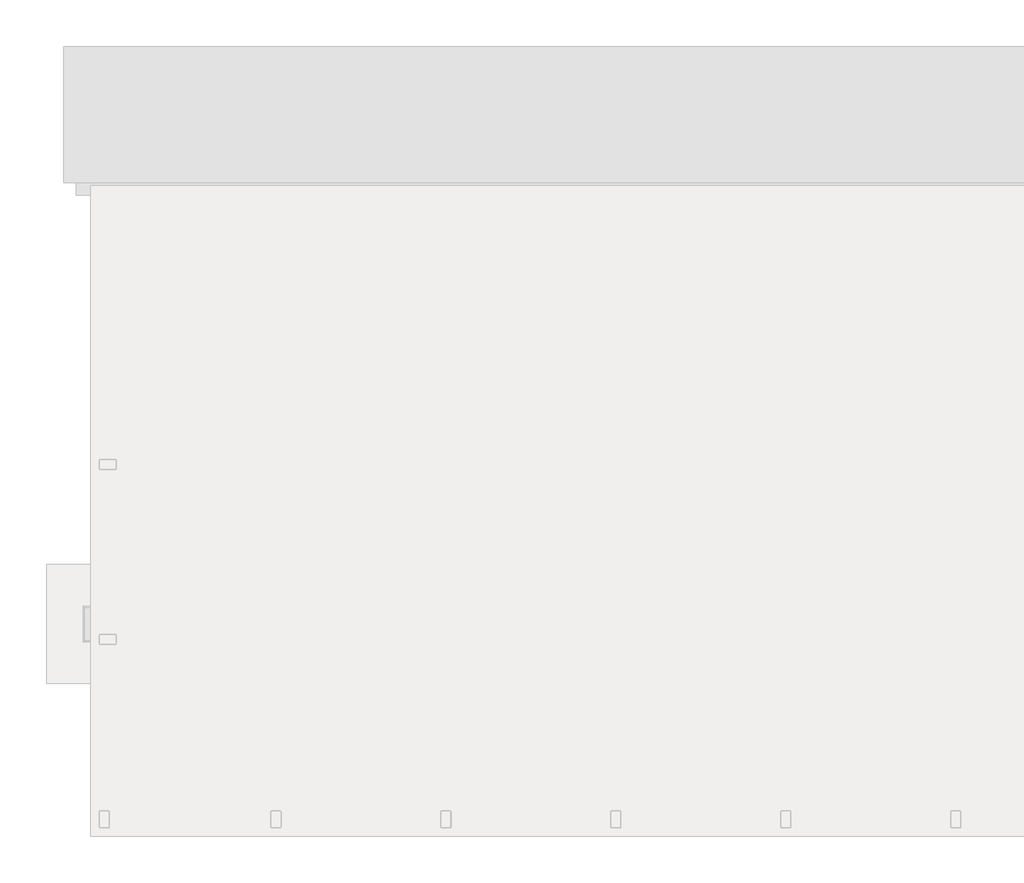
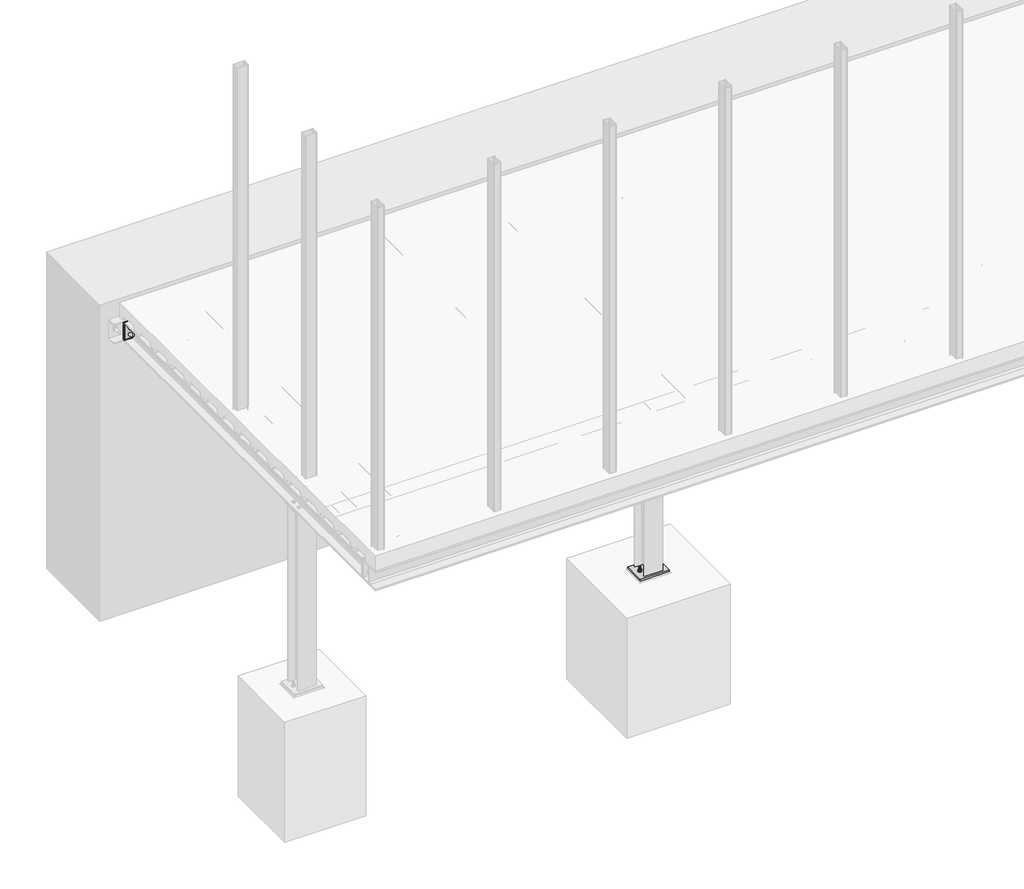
# One storey, part 8 of 36: 11 proxies.
"""IFC4 building model written with IfcOpenShell, lengths in millimetres."""

import ifcopenshell
import ifcopenshell.guid

model = None  # the IFC model being written
_history = None  # IfcOwnerHistory: only IFC2X3 demands one
_inside = {}  # id of a spatial element -> (the spatial element, [elements in it])
_under = {}  # id of a project, library or spatial element -> (it, [spatial elements below it])
_declared = {}  # id of a project -> (the project, [libraries it declares])
_typed = {}  # id of a type object -> (the type object, [elements of that type])
_made_of = {}  # id of a material, layer set ... -> (it, [elements and type objects made of it])


def new_model(schema):
    """Start an empty IFC model of exactly this schema.

    Asked for "IFC4X3", IfcOpenShell would pick the latest addendum, in which some entities
    have other attributes; the version numbers below select the first issue.
    IFC2X3 requires an IfcOwnerHistory on every rooted entity: one is made here for all.
    """
    global model, _history
    if schema == "IFC4X3":
        model = ifcopenshell.file(schema_version=(4, 3, 0, 0))
    else:
        model = ifcopenshell.file(schema=schema)
    _inside.clear()
    _under.clear()
    _declared.clear()
    _typed.clear()
    _made_of.clear()
    _history = None
    if model.schema == "IFC2X3":
        org = make("IfcOrganization", Name="unknown")
        user = make(
            "IfcPersonAndOrganization",
            ThePerson=make("IfcPerson", FamilyName="unknown"),
            TheOrganization=org,
        )
        app = make(
            "IfcApplication",
            ApplicationDeveloper=org,
            Version="unknown",
            ApplicationFullName="unknown",
            ApplicationIdentifier="unknown",
        )
        _history = make(
            "IfcOwnerHistory",
            OwningUser=user,
            OwningApplication=app,
            ChangeAction="ADDED",
            CreationDate=0,
        )
    return model


def make(cls, **values):
    """One entity of the class cls with the attributes given. An attribute that is None is left unset."""
    return model.create_entity(
        cls, **{name: value for name, value in values.items() if value is not None}
    )


def rooted(cls, **values):
    """An entity with a GlobalId (a new one), such as an element, a storey or a relation."""
    return make(cls, GlobalId=ifcopenshell.guid.new(), OwnerHistory=_history, **values)


def si_unit(unit_type, name, prefix=None):
    """IfcSIUnit, for example si_unit("LENGTHUNIT", "METRE", prefix="MILLI")."""
    return make("IfcSIUnit", UnitType=unit_type, Prefix=prefix, Name=name)


def assignment(units):
    """IfcUnitAssignment: the units of a project."""
    return None if units is None else make("IfcUnitAssignment", Units=units)


def point(xyz):
    """IfcCartesianPoint."""
    return None if xyz is None else make("IfcCartesianPoint", Coordinates=xyz)


def direction(xyz):
    """IfcDirection."""
    return None if xyz is None else make("IfcDirection", DirectionRatios=xyz)


def frame(location, z_axis=None, x_axis=None):
    """IfcAxis2Placement3D, a coordinate frame: its origin and axes. An axis left out is left unset."""
    return make(
        "IfcAxis2Placement3D",
        Location=point(location),
        Axis=direction(z_axis),
        RefDirection=direction(x_axis),
    )


def frame_2d(location, x_axis=None):
    """IfcAxis2Placement2D, a coordinate frame in the plane: its origin and x axis."""
    return make(
        "IfcAxis2Placement2D", Location=point(location), RefDirection=direction(x_axis)
    )


def origin():
    """The frame at (0, 0, 0) with its axes left unset."""
    return frame((0.0, 0.0, 0.0))


def place(relative_to, where):
    """IfcLocalPlacement: puts the frame where relative to a parent placement (None: the world)."""
    return make(
        "IfcLocalPlacement", PlacementRelTo=relative_to, RelativePlacement=where
    )


def context(
    kind, dimensions, precision=None, world=None, true_north=None, identifier=None
):
    """IfcGeometricRepresentationContext, for example the 3D "Model" context."""
    return make(
        "IfcGeometricRepresentationContext",
        ContextIdentifier=identifier,
        ContextType=kind,
        CoordinateSpaceDimension=dimensions,
        Precision=precision,
        WorldCoordinateSystem=world,
        TrueNorth=true_north,
    )


def project(units=None, contexts=None):
    """IfcProject with its units and contexts."""
    return rooted(
        "IfcProject",
        Name="project",
        RepresentationContexts=contexts,
        UnitsInContext=assignment(units),
    )


def spatial(cls, under=None, at=None, **own):
    """A site, building, storey or space (cls), placed at a placement, below another one or the project."""
    s = rooted(cls, ObjectPlacement=at, **own)
    if under is not None:
        _under.setdefault(under.id(), (under, []))[1].append(s)
    return s


def polyline(points):
    """IfcPolyline through the points."""
    return make("IfcPolyline", Points=[point(p) for p in points])


def circle_curve(where, radius):
    """IfcCircle in the frame where."""
    return make("IfcCircle", Position=where, Radius=radius)


def trimmed(basis, trim1, trim2, sense, master):
    """IfcTrimmedCurve: the piece of a basis curve between two trims."""
    return make(
        "IfcTrimmedCurve",
        BasisCurve=basis,
        Trim1=trim1,
        Trim2=trim2,
        SenseAgreement=sense,
        MasterRepresentation=master,
    )


def segment(curve, same_sense, transition):
    """IfcCompositeCurveSegment."""
    return make(
        "IfcCompositeCurveSegment",
        Transition=transition,
        SameSense=same_sense,
        ParentCurve=curve,
    )


def composite_curve(segments, self_intersect=None):
    """IfcCompositeCurve: segments joined end to end."""
    return make("IfcCompositeCurve", Segments=segments, SelfIntersect=self_intersect)


def outline(outer, holes=None, kind="AREA"):
    """IfcArbitraryClosedProfileDef: a profile drawn as a closed curve; with holes, ...WithVoids."""
    if holes is None:
        return make("IfcArbitraryClosedProfileDef", ProfileType=kind, OuterCurve=outer)
    return make(
        "IfcArbitraryProfileDefWithVoids",
        ProfileType=kind,
        OuterCurve=outer,
        InnerCurves=holes,
    )


def extrude(swept, where, along, depth):
    """IfcExtrudedAreaSolid: the profile swept, set in the frame where, extruded along a direction by depth."""
    return make(
        "IfcExtrudedAreaSolid",
        SweptArea=swept,
        Position=where,
        ExtrudedDirection=direction(along),
        Depth=depth,
    )


def shape(context_of_items, identifier, shape_type, items):
    """IfcShapeRepresentation: the items that make up one representation, for example the "Body"."""
    return make(
        "IfcShapeRepresentation",
        ContextOfItems=context_of_items,
        RepresentationIdentifier=identifier,
        RepresentationType=shape_type,
        Items=items,
    )


def made_of(thing, what):
    """Note that an element or type object is made of a material, layer set ...; save() writes the relation."""
    if what is not None:
        _made_of.setdefault(what.id(), (what, []))[1].append(thing)
    return thing


def element(
    cls,
    number,
    at=None,
    inside=None,
    cuts=None,
    type_object=None,
    material=None,
    context=None,
    identifier="Body",
    shape_type=None,
    held_by="IfcProductDefinitionShape",
    body=None,
    shapes=None,
    **own,
):
    """One element of the class cls, such as IfcWall. Its Tag is "e" and its number.

    at: its placement. inside: the storey or other place that contains it. cuts: it is an
    opening in that element (IfcRelVoidsElement). A single representation is given by context,
    identifier, shape_type and body (its items); several are given by shapes. held_by: the class
    of the entity that holds the representations. save() writes the other relations.
    """
    e = rooted(cls, Tag="e%d" % number, ObjectPlacement=at, **own)
    if body is not None:
        shapes = [shape(context, identifier, shape_type, body)]
    if shapes is not None:
        e.Representation = make(held_by, Representations=shapes)
    if inside is not None:
        _inside.setdefault(inside.id(), (inside, []))[1].append(e)
    if cuts is not None:
        rooted(
            "IfcRelVoidsElement", RelatingBuildingElement=cuts, RelatedOpeningElement=e
        )
    if type_object is not None:
        _typed.setdefault(type_object.id(), (type_object, []))[1].append(e)
    return made_of(e, material)


def aggregate(whole, parts):
    """IfcRelAggregates: a whole, such as a stair, and the parts it consists of."""
    return rooted("IfcRelAggregates", RelatingObject=whole, RelatedObjects=parts)


def save(model, path):
    """Write the relations noted so far, then the file.

    IfcRelAggregates (storeys below a building ...), IfcRelContainedInSpatialStructure (elements
    in a storey), IfcRelDefinesByType, IfcRelAssociatesMaterial and IfcRelDeclares: one each for
    every whole, place, type object, material and project.
    """
    for whole, parts in _under.values():
        aggregate(whole, parts)
    for where, things in _inside.values():
        rooted(
            "IfcRelContainedInSpatialStructure",
            RelatedElements=things,
            RelatingStructure=where,
        )
    for kind, things in _typed.values():
        rooted("IfcRelDefinesByType", RelatedObjects=things, RelatingType=kind)
    for what, things in _made_of.values():
        rooted("IfcRelAssociatesMaterial", RelatedObjects=things, RelatingMaterial=what)
    for by, libraries in _declared.values():
        rooted("IfcRelDeclares", RelatingContext=by, RelatedDefinitions=libraries)
    model.write(path)


model = new_model("IFC4")

# Units and contexts
model_context = context("Model", 3, world=origin())
ifc_project = project(units=[si_unit("LENGTHUNIT", "METRE", prefix="MILLI")], contexts=[model_context])

# Site, building, storey
site = spatial("IfcSite", under=ifc_project)
building = spatial("IfcBuilding", under=site)
storey = spatial("IfcBuildingStorey", under=building, Name="Základy", Elevation=-1200.0)

# Proxies
placement = place(None, origin())
element("IfcBuildingElementProxy", 1, Name="PLECH", ObjectType="PLECH", at=placement, inside=storey, context=model_context, shape_type="SweptSolid", body=[
    extrude(outline(composite_curve([segment(polyline([(-174.0, 2960.0), (-326.0, 2960.0), (-326.0, 3020.5)]), True, "CONTINUOUS"), segment(trimmed(circle_curve(frame_2d((-326.0, 3045.5)), 25.0), [point((-326.0, 3020.5))], [point((-301.0, 3045.5))], True, "CARTESIAN"), True, "CONTINUOUS"), segment(polyline([(-301.0, 3045.5), (-199.0, 3045.5)]), True, "CONTINUOUS"), segment(trimmed(circle_curve(frame_2d((-174.0, 3045.5)), 25.0), [point((-199.0, 3045.5))], [point((-174.0, 3020.5))], True, "CARTESIAN"), True, "CONTINUOUS"), segment(polyline([(-174.0, 3020.5), (-174.0, 2960.0)]), True, "CONTINUOUS")], self_intersect=False)), frame((0.0, 1256.0, 0.0), z_axis=(0.0, 1.0, 0.0), x_axis=(0.0, 0.0, 1.0)), (0.0, 0.0, 1.0), 8.0),
])
element("IfcBuildingElementProxy", 2, Name="PLECH", ObjectType="PLECH", at=placement, inside=storey, context=model_context, shape_type="SweptSolid", body=[
    extrude(outline(polyline([(3140.0, 1200.0), (3140.0, 1320.0), (3150.0, 1320.0), (3150.0, 1200.0), (3140.0, 1200.0)])), frame((0.0, 0.0, -332.0), z_axis=(0.0, 0.0, 1.0), x_axis=(1.0, 0.0, 0.0)), (0.0, 0.0, 1.0), 164.0),
])
element("IfcBuildingElementProxy", 3, Name="PLECH", ObjectType="PLECH", at=placement, inside=storey, context=model_context, shape_type="SweptSolid", body=[
    extrude(outline(composite_curve([segment(polyline([(-174.0, 3140.0), (-174.0, 3079.5)]), True, "CONTINUOUS"), segment(trimmed(circle_curve(frame_2d((-174.0, 3054.5)), 25.0), [point((-174.0, 3079.5))], [point((-199.0, 3054.5))], True, "CARTESIAN"), True, "CONTINUOUS"), segment(polyline([(-199.0, 3054.5), (-301.0, 3054.5)]), True, "CONTINUOUS"), segment(trimmed(circle_curve(frame_2d((-326.0, 3054.5)), 25.0), [point((-301.0, 3054.5))], [point((-326.0, 3079.5))], True, "CARTESIAN"), True, "CONTINUOUS"), segment(polyline([(-326.0, 3079.5), (-326.0, 3140.0), (-174.0, 3140.0)]), True, "CONTINUOUS")], self_intersect=False)), frame((0.0, 1256.0, 0.0), z_axis=(0.0, 1.0, 0.0), x_axis=(0.0, 0.0, 1.0)), (0.0, 0.0, 1.0), 8.0),
])
element("IfcBuildingElementProxy", 4, Name="PLECH", ObjectType="PLECH", at=placement, inside=storey, context=model_context, shape_type="SweptSolid", body=[
    extrude(outline(polyline([(-40.0, 3775.0), (140.0, 3775.0), (140.0, 3767.0), (-40.0, 3767.0), (-40.0, 3775.0)])), frame((0.0, 0.0, -316.0), z_axis=(0.0, 0.0, 1.0), x_axis=(1.0, 0.0, 0.0)), (0.0, 0.0, 1.0), 132.0),
])
element("IfcBuildingElementProxy", 5, Name="PLECH", ObjectType="PLECH", at=placement, inside=storey, context=model_context, shape_type="SweptSolid", body=[
    extrude(outline(polyline([(3175.0, 1356.0), (3175.0, 1164.0), (2925.0, 1164.0), (2925.0, 1356.0), (3175.0, 1356.0)])), frame((0.0, 0.0, -1990.0), z_axis=(0.0, 0.0, 1.0), x_axis=(1.0, 0.0, 0.0)), (0.0, 0.0, 1.0), 15.0),
])
element("IfcBuildingElementProxy", 6, Name="PLECH", ObjectType="PLECH", at=placement, inside=storey, context=model_context, shape_type="SweptSolid", body=[
    extrude(outline(polyline([(3140.0, 1346.0), (3140.0, 1174.0), (2960.0, 1174.0), (2960.0, 1346.0), (3140.0, 1346.0)])), frame((0.0, 0.0, -350.0), z_axis=(0.0, 0.0, 1.0), x_axis=(1.0, 0.0, 0.0)), (0.0, 0.0, 1.0), 10.0),
])
element("IfcBuildingElementProxy", 7, Name="PLECH", ObjectType="PLECH", at=placement, inside=storey, context=model_context, shape_type="SweptSolid", body=[
    extrude(outline(composite_curve([segment(polyline([(3785.0, -170.5), (3834.5, -170.5)]), True, "CONTINUOUS"), segment(trimmed(circle_curve(frame_2d((3854.5, -170.5)), 20.0), [point((3834.5, -170.5))], [point((3854.5, -190.5))], True, "CARTESIAN"), True, "CONTINUOUS"), segment(polyline([(3854.5, -190.5), (3854.5, -309.5)]), True, "CONTINUOUS"), segment(trimmed(circle_curve(frame_2d((3854.5, -329.5)), 20.0), [point((3854.5, -309.5))], [point((3834.5, -329.5))], True, "CARTESIAN"), True, "CONTINUOUS"), segment(polyline([(3834.5, -329.5), (3785.0, -329.5), (3785.0, -170.5)]), True, "CONTINUOUS")], self_intersect=False)), frame((46.0, 0.0, 0.0), z_axis=(1.0, 0.0, 0.0), x_axis=(0.0, 1.0, 0.0)), (0.0, 0.0, 1.0), 8.0),
])
element("IfcBuildingElementProxy", 8, Name="PLECH", ObjectType="PLECH", at=placement, inside=storey, context=model_context, shape_type="SweptSolid", body=[
    extrude(outline(polyline([(-40.0, 3785.0), (140.0, 3785.0), (140.0, 3775.0), (-40.0, 3775.0), (-40.0, 3785.0)])), frame((0.0, 0.0, -332.0), z_axis=(0.0, 0.0, 1.0), x_axis=(1.0, 0.0, 0.0)), (0.0, 0.0, 1.0), 164.0),
])
element("IfcBuildingElementProxy", 9, Name="Bolt assembly", ObjectType="Bolt assembly", at=placement, inside=storey, context=model_context, shape_type="SweptSolid", body=[
    extrude(outline(composite_curve([segment(trimmed(circle_curve(frame_2d((1230.0, -225.0)), 6.5), [point((1230.0, -231.5))], [point((1230.0, -218.5))], False, "CARTESIAN"), True, "CONTINUOUS"), segment(trimmed(circle_curve(frame_2d((1230.0, -225.0)), 6.5), [point((1230.0, -218.5))], [point((1230.0, -231.5))], False, "CARTESIAN"), True, "CONTINUOUS")], self_intersect=False)), frame((3140.1, 0.0, 0.0), z_axis=(1.0, 0.0, 0.0), x_axis=(0.0, 1.0, 0.0)), (0.0, 0.0, 1.0), 10.0),
    extrude(outline(polyline([(1230.0, -235.3923048), (1221.0, -230.1961524), (1221.0, -219.8038476), (1230.0, -214.6076952), (1239.0, -219.8038476), (1239.0, -230.1961524), (1230.0, -235.3923048)])), frame((3130.0, 0.0, 0.0), z_axis=(1.0, 0.0, 0.0), x_axis=(0.0, 1.0, 0.0)), (0.0, 0.0, 1.0), 7.5),
    extrude(outline(composite_curve([segment(trimmed(circle_curve(frame_2d((1230.0, -225.0)), 6.0), [point((1230.0, -231.0))], [point((1230.0, -219.0))], False, "CARTESIAN"), True, "CONTINUOUS"), segment(trimmed(circle_curve(frame_2d((1230.0, -225.0)), 6.0), [point((1230.0, -219.0))], [point((1230.0, -231.0))], False, "CARTESIAN"), True, "CONTINUOUS")], self_intersect=False)), frame((3137.5, 0.0, 0.0), z_axis=(1.0, 0.0, 0.0), x_axis=(0.0, 1.0, 0.0)), (0.0, 0.0, 1.0), 40.0),
    extrude(outline(composite_curve([segment(trimmed(circle_curve(frame_2d((1230.0, -225.0)), 12.0), [point((1230.0, -237.0))], [point((1230.0, -213.0))], False, "CARTESIAN"), True, "CONTINUOUS"), segment(trimmed(circle_curve(frame_2d((1230.0, -225.0)), 12.0), [point((1230.0, -213.0))], [point((1230.0, -237.0))], False, "CARTESIAN"), True, "CONTINUOUS")], self_intersect=False)), frame((3137.5, 0.0, 0.0), z_axis=(1.0, 0.0, 0.0), x_axis=(0.0, 1.0, 0.0)), (0.0, 0.0, 1.0), 2.5),
    extrude(outline(composite_curve([segment(trimmed(circle_curve(frame_2d((1230.0, -225.0)), 12.0), [point((1230.0, -237.0))], [point((1230.0, -213.0))], False, "CARTESIAN"), True, "CONTINUOUS"), segment(trimmed(circle_curve(frame_2d((1230.0, -225.0)), 12.0), [point((1230.0, -213.0))], [point((1230.0, -237.0))], False, "CARTESIAN"), True, "CONTINUOUS")], self_intersect=False)), frame((3160.0, 0.0, 0.0), z_axis=(1.0, 0.0, 0.0), x_axis=(0.0, 1.0, 0.0)), (0.0, 0.0, 1.0), 2.5),
    extrude(outline(polyline([(1230.0, -235.9696551), (1220.5, -230.4848276), (1220.5, -219.5151724), (1230.0, -214.0303449), (1239.5, -219.5151724), (1239.5, -230.4848276), (1230.0, -235.9696551)])), frame((3162.5, 0.0, 0.0), z_axis=(1.0, 0.0, 0.0), x_axis=(0.0, 1.0, 0.0)), (0.0, 0.0, 1.0), 10.0),
    extrude(outline(composite_curve([segment(trimmed(circle_curve(frame_2d((1230.0, -225.0)), 6.5), [point((1230.0, -231.5))], [point((1230.0, -218.5))], False, "CARTESIAN"), True, "CONTINUOUS"), segment(trimmed(circle_curve(frame_2d((1230.0, -225.0)), 6.5), [point((1230.0, -218.5))], [point((1230.0, -231.5))], False, "CARTESIAN"), True, "CONTINUOUS")], self_intersect=False)), frame((3149.9, 0.0, 0.0), z_axis=(1.0, 0.0, 0.0), x_axis=(0.0, 1.0, 0.0)), (0.0, 0.0, 1.0), 10.1),
    extrude(outline(composite_curve([segment(trimmed(circle_curve(frame_2d((1230.0, -275.0)), 6.5), [point((1230.0, -281.5))], [point((1230.0, -268.5))], False, "CARTESIAN"), True, "CONTINUOUS"), segment(trimmed(circle_curve(frame_2d((1230.0, -275.0)), 6.5), [point((1230.0, -268.5))], [point((1230.0, -281.5))], False, "CARTESIAN"), True, "CONTINUOUS")], self_intersect=False)), frame((3140.1, 0.0, 0.0), z_axis=(1.0, 0.0, 0.0), x_axis=(0.0, 1.0, 0.0)), (0.0, 0.0, 1.0), 10.0),
    extrude(outline(polyline([(1230.0, -285.3923048), (1221.0, -280.1961524), (1221.0, -269.8038476), (1230.0, -264.6076952), (1239.0, -269.8038476), (1239.0, -280.1961524), (1230.0, -285.3923048)])), frame((3130.0, 0.0, 0.0), z_axis=(1.0, 0.0, 0.0), x_axis=(0.0, 1.0, 0.0)), (0.0, 0.0, 1.0), 7.5),
    extrude(outline(composite_curve([segment(trimmed(circle_curve(frame_2d((1230.0, -275.0)), 6.0), [point((1230.0, -281.0))], [point((1230.0, -269.0))], False, "CARTESIAN"), True, "CONTINUOUS"), segment(trimmed(circle_curve(frame_2d((1230.0, -275.0)), 6.0), [point((1230.0, -269.0))], [point((1230.0, -281.0))], False, "CARTESIAN"), True, "CONTINUOUS")], self_intersect=False)), frame((3137.5, 0.0, 0.0), z_axis=(1.0, 0.0, 0.0), x_axis=(0.0, 1.0, 0.0)), (0.0, 0.0, 1.0), 40.0),
    extrude(outline(composite_curve([segment(trimmed(circle_curve(frame_2d((1230.0, -275.0)), 12.0), [point((1230.0, -287.0))], [point((1230.0, -263.0))], False, "CARTESIAN"), True, "CONTINUOUS"), segment(trimmed(circle_curve(frame_2d((1230.0, -275.0)), 12.0), [point((1230.0, -263.0))], [point((1230.0, -287.0))], False, "CARTESIAN"), True, "CONTINUOUS")], self_intersect=False)), frame((3137.5, 0.0, 0.0), z_axis=(1.0, 0.0, 0.0), x_axis=(0.0, 1.0, 0.0)), (0.0, 0.0, 1.0), 2.5),
    extrude(outline(composite_curve([segment(trimmed(circle_curve(frame_2d((1230.0, -275.0)), 12.0), [point((1230.0, -287.0))], [point((1230.0, -263.0))], False, "CARTESIAN"), True, "CONTINUOUS"), segment(trimmed(circle_curve(frame_2d((1230.0, -275.0)), 12.0), [point((1230.0, -263.0))], [point((1230.0, -287.0))], False, "CARTESIAN"), True, "CONTINUOUS")], self_intersect=False)), frame((3160.0, 0.0, 0.0), z_axis=(1.0, 0.0, 0.0), x_axis=(0.0, 1.0, 0.0)), (0.0, 0.0, 1.0), 2.5),
    extrude(outline(polyline([(1230.0, -285.9696551), (1220.5, -280.4848276), (1220.5, -269.5151724), (1230.0, -264.0303449), (1239.5, -269.5151724), (1239.5, -280.4848276), (1230.0, -285.9696551)])), frame((3162.5, 0.0, 0.0), z_axis=(1.0, 0.0, 0.0), x_axis=(0.0, 1.0, 0.0)), (0.0, 0.0, 1.0), 10.0),
    extrude(outline(composite_curve([segment(trimmed(circle_curve(frame_2d((1230.0, -275.0)), 6.5), [point((1230.0, -281.5))], [point((1230.0, -268.5))], False, "CARTESIAN"), True, "CONTINUOUS"), segment(trimmed(circle_curve(frame_2d((1230.0, -275.0)), 6.5), [point((1230.0, -268.5))], [point((1230.0, -281.5))], False, "CARTESIAN"), True, "CONTINUOUS")], self_intersect=False)), frame((3149.9, 0.0, 0.0), z_axis=(1.0, 0.0, 0.0), x_axis=(0.0, 1.0, 0.0)), (0.0, 0.0, 1.0), 10.1),
    extrude(outline(composite_curve([segment(trimmed(circle_curve(frame_2d((1290.0, -225.0)), 6.5), [point((1290.0, -231.5))], [point((1290.0, -218.5))], False, "CARTESIAN"), True, "CONTINUOUS"), segment(trimmed(circle_curve(frame_2d((1290.0, -225.0)), 6.5), [point((1290.0, -218.5))], [point((1290.0, -231.5))], False, "CARTESIAN"), True, "CONTINUOUS")], self_intersect=False)), frame((3140.1, 0.0, 0.0), z_axis=(1.0, 0.0, 0.0), x_axis=(0.0, 1.0, 0.0)), (0.0, 0.0, 1.0), 10.0),
    extrude(outline(polyline([(1290.0, -235.3923048), (1281.0, -230.1961524), (1281.0, -219.8038476), (1290.0, -214.6076952), (1299.0, -219.8038476), (1299.0, -230.1961524), (1290.0, -235.3923048)])), frame((3130.0, 0.0, 0.0), z_axis=(1.0, 0.0, 0.0), x_axis=(0.0, 1.0, 0.0)), (0.0, 0.0, 1.0), 7.5),
    extrude(outline(composite_curve([segment(trimmed(circle_curve(frame_2d((1290.0, -225.0)), 6.0), [point((1290.0, -231.0))], [point((1290.0, -219.0))], False, "CARTESIAN"), True, "CONTINUOUS"), segment(trimmed(circle_curve(frame_2d((1290.0, -225.0)), 6.0), [point((1290.0, -219.0))], [point((1290.0, -231.0))], False, "CARTESIAN"), True, "CONTINUOUS")], self_intersect=False)), frame((3137.5, 0.0, 0.0), z_axis=(1.0, 0.0, 0.0), x_axis=(0.0, 1.0, 0.0)), (0.0, 0.0, 1.0), 40.0),
    extrude(outline(composite_curve([segment(trimmed(circle_curve(frame_2d((1290.0, -225.0)), 12.0), [point((1290.0, -237.0))], [point((1290.0, -213.0))], False, "CARTESIAN"), True, "CONTINUOUS"), segment(trimmed(circle_curve(frame_2d((1290.0, -225.0)), 12.0), [point((1290.0, -213.0))], [point((1290.0, -237.0))], False, "CARTESIAN"), True, "CONTINUOUS")], self_intersect=False)), frame((3137.5, 0.0, 0.0), z_axis=(1.0, 0.0, 0.0), x_axis=(0.0, 1.0, 0.0)), (0.0, 0.0, 1.0), 2.5),
    extrude(outline(composite_curve([segment(trimmed(circle_curve(frame_2d((1290.0, -225.0)), 12.0), [point((1290.0, -237.0))], [point((1290.0, -213.0))], False, "CARTESIAN"), True, "CONTINUOUS"), segment(trimmed(circle_curve(frame_2d((1290.0, -225.0)), 12.0), [point((1290.0, -213.0))], [point((1290.0, -237.0))], False, "CARTESIAN"), True, "CONTINUOUS")], self_intersect=False)), frame((3160.0, 0.0, 0.0), z_axis=(1.0, 0.0, 0.0), x_axis=(0.0, 1.0, 0.0)), (0.0, 0.0, 1.0), 2.5),
    extrude(outline(polyline([(1290.0, -235.9696551), (1280.5, -230.4848276), (1280.5, -219.5151724), (1290.0, -214.0303449), (1299.5, -219.5151724), (1299.5, -230.4848276), (1290.0, -235.9696551)])), frame((3162.5, 0.0, 0.0), z_axis=(1.0, 0.0, 0.0), x_axis=(0.0, 1.0, 0.0)), (0.0, 0.0, 1.0), 10.0),
    extrude(outline(composite_curve([segment(trimmed(circle_curve(frame_2d((1290.0, -225.0)), 6.5), [point((1290.0, -231.5))], [point((1290.0, -218.5))], False, "CARTESIAN"), True, "CONTINUOUS"), segment(trimmed(circle_curve(frame_2d((1290.0, -225.0)), 6.5), [point((1290.0, -218.5))], [point((1290.0, -231.5))], False, "CARTESIAN"), True, "CONTINUOUS")], self_intersect=False)), frame((3149.9, 0.0, 0.0), z_axis=(1.0, 0.0, 0.0), x_axis=(0.0, 1.0, 0.0)), (0.0, 0.0, 1.0), 10.1),
    extrude(outline(composite_curve([segment(trimmed(circle_curve(frame_2d((1290.0, -275.0)), 6.5), [point((1290.0, -281.5))], [point((1290.0, -268.5))], False, "CARTESIAN"), True, "CONTINUOUS"), segment(trimmed(circle_curve(frame_2d((1290.0, -275.0)), 6.5), [point((1290.0, -268.5))], [point((1290.0, -281.5))], False, "CARTESIAN"), True, "CONTINUOUS")], self_intersect=False)), frame((3140.1, 0.0, 0.0), z_axis=(1.0, 0.0, 0.0), x_axis=(0.0, 1.0, 0.0)), (0.0, 0.0, 1.0), 10.0),
    extrude(outline(polyline([(1290.0, -285.3923048), (1281.0, -280.1961524), (1281.0, -269.8038476), (1290.0, -264.6076952), (1299.0, -269.8038476), (1299.0, -280.1961524), (1290.0, -285.3923048)])), frame((3130.0, 0.0, 0.0), z_axis=(1.0, 0.0, 0.0), x_axis=(0.0, 1.0, 0.0)), (0.0, 0.0, 1.0), 7.5),
    extrude(outline(composite_curve([segment(trimmed(circle_curve(frame_2d((1290.0, -275.0)), 6.0), [point((1290.0, -281.0))], [point((1290.0, -269.0))], False, "CARTESIAN"), True, "CONTINUOUS"), segment(trimmed(circle_curve(frame_2d((1290.0, -275.0)), 6.0), [point((1290.0, -269.0))], [point((1290.0, -281.0))], False, "CARTESIAN"), True, "CONTINUOUS")], self_intersect=False)), frame((3137.5, 0.0, 0.0), z_axis=(1.0, 0.0, 0.0), x_axis=(0.0, 1.0, 0.0)), (0.0, 0.0, 1.0), 40.0),
    extrude(outline(composite_curve([segment(trimmed(circle_curve(frame_2d((1290.0, -275.0)), 12.0), [point((1290.0, -287.0))], [point((1290.0, -263.0))], False, "CARTESIAN"), True, "CONTINUOUS"), segment(trimmed(circle_curve(frame_2d((1290.0, -275.0)), 12.0), [point((1290.0, -263.0))], [point((1290.0, -287.0))], False, "CARTESIAN"), True, "CONTINUOUS")], self_intersect=False)), frame((3137.5, 0.0, 0.0), z_axis=(1.0, 0.0, 0.0), x_axis=(0.0, 1.0, 0.0)), (0.0, 0.0, 1.0), 2.5),
    extrude(outline(composite_curve([segment(trimmed(circle_curve(frame_2d((1290.0, -275.0)), 12.0), [point((1290.0, -287.0))], [point((1290.0, -263.0))], False, "CARTESIAN"), True, "CONTINUOUS"), segment(trimmed(circle_curve(frame_2d((1290.0, -275.0)), 12.0), [point((1290.0, -263.0))], [point((1290.0, -287.0))], False, "CARTESIAN"), True, "CONTINUOUS")], self_intersect=False)), frame((3160.0, 0.0, 0.0), z_axis=(1.0, 0.0, 0.0), x_axis=(0.0, 1.0, 0.0)), (0.0, 0.0, 1.0), 2.5),
    extrude(outline(polyline([(1290.0, -285.9696551), (1280.5, -280.4848276), (1280.5, -269.5151724), (1290.0, -264.0303449), (1299.5, -269.5151724), (1299.5, -280.4848276), (1290.0, -285.9696551)])), frame((3162.5, 0.0, 0.0), z_axis=(1.0, 0.0, 0.0), x_axis=(0.0, 1.0, 0.0)), (0.0, 0.0, 1.0), 10.0),
    extrude(outline(composite_curve([segment(trimmed(circle_curve(frame_2d((1290.0, -275.0)), 6.5), [point((1290.0, -281.5))], [point((1290.0, -268.5))], False, "CARTESIAN"), True, "CONTINUOUS"), segment(trimmed(circle_curve(frame_2d((1290.0, -275.0)), 6.5), [point((1290.0, -268.5))], [point((1290.0, -281.5))], False, "CARTESIAN"), True, "CONTINUOUS")], self_intersect=False)), frame((3149.9, 0.0, 0.0), z_axis=(1.0, 0.0, 0.0), x_axis=(0.0, 1.0, 0.0)), (0.0, 0.0, 1.0), 10.1),
])
element("IfcBuildingElementProxy", 10, Name="Bolt assembly", ObjectType="Bolt assembly", at=placement, inside=storey, context=model_context, shape_type="SweptSolid", body=[
    extrude(outline(polyline([(2982.7364934, 1260.0), (2978.8682467, 1253.3000002), (2971.1317533, 1253.3000002), (2967.2635066, 1260.0), (2971.1317533, 1266.6999998), (2978.8682467, 1266.6999998), (2982.7364934, 1260.0)])), frame((0.0, 0.0, -2122.0), z_axis=(0.0, 0.0, 1.0), x_axis=(1.0, 0.0, 0.0)), (0.0, 0.0, 1.0), 132.0),
    extrude(outline(composite_curve([segment(trimmed(circle_curve(frame_2d((2975.0, 1260.0)), 8.0), [point((2983.0, 1260.0))], [point((2967.0, 1260.0))], False, "CARTESIAN"), True, "CONTINUOUS"), segment(trimmed(circle_curve(frame_2d((2975.0, 1260.0)), 8.0), [point((2967.0, 1260.0))], [point((2983.0, 1260.0))], False, "CARTESIAN"), True, "CONTINUOUS")], self_intersect=False)), frame((0.0, 0.0, -1990.0), z_axis=(0.0, 0.0, 1.0), x_axis=(1.0, 0.0, 0.0)), (0.0, 0.0, 1.0), 58.0),
    extrude(outline(composite_curve([segment(trimmed(circle_curve(frame_2d((2975.0, 1260.0)), 15.0), [point((2990.0, 1260.0))], [point((2960.0, 1260.0))], False, "CARTESIAN"), True, "CONTINUOUS"), segment(trimmed(circle_curve(frame_2d((2975.0, 1260.0)), 15.0), [point((2960.0, 1260.0))], [point((2990.0, 1260.0))], False, "CARTESIAN"), True, "CONTINUOUS")], self_intersect=False)), frame((0.0, 0.0, -1975.0), z_axis=(0.0, 0.0, 1.0), x_axis=(1.0, 0.0, 0.0)), (0.0, 0.0, 1.0), 3.0),
    extrude(outline(polyline([(2990.4441197, 1260.0), (2982.7220599, 1246.625), (2967.2779401, 1246.625), (2959.5558803, 1260.0), (2967.2779401, 1273.375), (2982.7220599, 1273.375), (2990.4441197, 1260.0)])), frame((0.0, 0.0, -1972.0), z_axis=(0.0, 0.0, 1.0), x_axis=(1.0, 0.0, 0.0)), (0.0, 0.0, 1.0), 13.0),
    extrude(outline(composite_curve([segment(trimmed(circle_curve(frame_2d((2975.0, 1260.0)), 9.0), [point((2984.0, 1260.0))], [point((2966.0, 1260.0))], False, "CARTESIAN"), True, "CONTINUOUS"), segment(trimmed(circle_curve(frame_2d((2975.0, 1260.0)), 9.0), [point((2966.0, 1260.0))], [point((2984.0, 1260.0))], False, "CARTESIAN"), True, "CONTINUOUS")], self_intersect=False)), frame((0.0, 0.0, -1990.0), z_axis=(0.0, 0.0, 1.0), x_axis=(1.0, 0.0, 0.0)), (0.0, 0.0, 1.0), 15.1),
    extrude(outline(polyline([(3132.7364934, 1260.0), (3128.8682467, 1253.3000002), (3121.1317533, 1253.3000002), (3117.2635066, 1260.0), (3121.1317533, 1266.6999998), (3128.8682467, 1266.6999998), (3132.7364934, 1260.0)])), frame((0.0, 0.0, -2122.0), z_axis=(0.0, 0.0, 1.0), x_axis=(1.0, 0.0, 0.0)), (0.0, 0.0, 1.0), 132.0),
    extrude(outline(composite_curve([segment(trimmed(circle_curve(frame_2d((3125.0, 1260.0)), 8.0), [point((3133.0, 1260.0))], [point((3117.0, 1260.0))], False, "CARTESIAN"), True, "CONTINUOUS"), segment(trimmed(circle_curve(frame_2d((3125.0, 1260.0)), 8.0), [point((3117.0, 1260.0))], [point((3133.0, 1260.0))], False, "CARTESIAN"), True, "CONTINUOUS")], self_intersect=False)), frame((0.0, 0.0, -1990.0), z_axis=(0.0, 0.0, 1.0), x_axis=(1.0, 0.0, 0.0)), (0.0, 0.0, 1.0), 58.0),
    extrude(outline(composite_curve([segment(trimmed(circle_curve(frame_2d((3125.0, 1260.0)), 15.0), [point((3140.0, 1260.0))], [point((3110.0, 1260.0))], False, "CARTESIAN"), True, "CONTINUOUS"), segment(trimmed(circle_curve(frame_2d((3125.0, 1260.0)), 15.0), [point((3110.0, 1260.0))], [point((3140.0, 1260.0))], False, "CARTESIAN"), True, "CONTINUOUS")], self_intersect=False)), frame((0.0, 0.0, -1975.0), z_axis=(0.0, 0.0, 1.0), x_axis=(1.0, 0.0, 0.0)), (0.0, 0.0, 1.0), 3.0),
    extrude(outline(polyline([(3140.4441197, 1260.0), (3132.7220599, 1246.625), (3117.2779401, 1246.625), (3109.5558803, 1260.0), (3117.2779401, 1273.375), (3132.7220599, 1273.375), (3140.4441197, 1260.0)])), frame((0.0, 0.0, -1972.0), z_axis=(0.0, 0.0, 1.0), x_axis=(1.0, 0.0, 0.0)), (0.0, 0.0, 1.0), 13.0),
    extrude(outline(composite_curve([segment(trimmed(circle_curve(frame_2d((3125.0, 1260.0)), 9.0), [point((3134.0, 1260.0))], [point((3116.0, 1260.0))], False, "CARTESIAN"), True, "CONTINUOUS"), segment(trimmed(circle_curve(frame_2d((3125.0, 1260.0)), 9.0), [point((3116.0, 1260.0))], [point((3134.0, 1260.0))], False, "CARTESIAN"), True, "CONTINUOUS")], self_intersect=False)), frame((0.0, 0.0, -1990.0), z_axis=(0.0, 0.0, 1.0), x_axis=(1.0, 0.0, 0.0)), (0.0, 0.0, 1.0), 15.1),
])
element("IfcBuildingElementProxy", 11, Name="Bolt assembly", ObjectType="Bolt assembly", at=placement, inside=storey, context=model_context, shape_type="SweptSolid", body=[
    extrude(outline(composite_curve([segment(trimmed(circle_curve(frame_2d((3000.0, 1220.0)), 6.5), [point((3006.5, 1220.0))], [point((2993.5, 1220.0))], False, "CARTESIAN"), True, "CONTINUOUS"), segment(trimmed(circle_curve(frame_2d((3000.0, 1220.0)), 6.5), [point((2993.5, 1220.0))], [point((3006.5, 1220.0))], False, "CARTESIAN"), True, "CONTINUOUS")], self_intersect=False)), frame((0.0, 0.0, -350.0), z_axis=(0.0, 0.0, 1.0), x_axis=(1.0, 0.0, 0.0)), (0.0, 0.0, 1.0), 10.1),
    extrude(outline(polyline([(3010.3923048, 1220.0), (3005.1961524, 1211.0), (2994.8038476, 1211.0), (2989.6076952, 1220.0), (2994.8038476, 1229.0), (3005.1961524, 1229.0), (3010.3923048, 1220.0)])), frame((0.0, 0.0, -323.5), z_axis=(0.0, 0.0, 1.0), x_axis=(1.0, 0.0, 0.0)), (0.0, 0.0, 1.0), 7.5),
    extrude(outline(composite_curve([segment(trimmed(circle_curve(frame_2d((3000.0, 1220.0)), 6.0), [point((3006.0, 1220.0))], [point((2994.0, 1220.0))], False, "CARTESIAN"), True, "CONTINUOUS"), segment(trimmed(circle_curve(frame_2d((3000.0, 1220.0)), 6.0), [point((2994.0, 1220.0))], [point((3006.0, 1220.0))], False, "CARTESIAN"), True, "CONTINUOUS")], self_intersect=False)), frame((0.0, 0.0, -368.5), z_axis=(0.0, 0.0, 1.0), x_axis=(1.0, 0.0, 0.0)), (0.0, 0.0, 1.0), 45.0),
    extrude(outline(composite_curve([segment(trimmed(circle_curve(frame_2d((3000.0, 1220.0)), 12.0), [point((3012.0, 1220.0))], [point((2988.0, 1220.0))], False, "CARTESIAN"), True, "CONTINUOUS"), segment(trimmed(circle_curve(frame_2d((3000.0, 1220.0)), 12.0), [point((2988.0, 1220.0))], [point((3012.0, 1220.0))], False, "CARTESIAN"), True, "CONTINUOUS")], self_intersect=False)), frame((0.0, 0.0, -326.0), z_axis=(0.0, 0.0, 1.0), x_axis=(1.0, 0.0, 0.0)), (0.0, 0.0, 1.0), 2.5),
    extrude(outline(composite_curve([segment(trimmed(circle_curve(frame_2d((3000.0, 1220.0)), 12.0), [point((3012.0, 1220.0))], [point((2988.0, 1220.0))], False, "CARTESIAN"), True, "CONTINUOUS"), segment(trimmed(circle_curve(frame_2d((3000.0, 1220.0)), 12.0), [point((2988.0, 1220.0))], [point((3012.0, 1220.0))], False, "CARTESIAN"), True, "CONTINUOUS")], self_intersect=False)), frame((0.0, 0.0, -352.5), z_axis=(0.0, 0.0, 1.0), x_axis=(1.0, 0.0, 0.0)), (0.0, 0.0, 1.0), 2.5),
    extrude(outline(polyline([(3010.9696551, 1220.0), (3005.4848276, 1210.5), (2994.5151724, 1210.5), (2989.0303449, 1220.0), (2994.5151724, 1229.5), (3005.4848276, 1229.5), (3010.9696551, 1220.0)])), frame((0.0, 0.0, -362.5), z_axis=(0.0, 0.0, 1.0), x_axis=(1.0, 0.0, 0.0)), (0.0, 0.0, 1.0), 10.0),
    extrude(outline(composite_curve([segment(trimmed(circle_curve(frame_2d((3000.0, 1220.0)), 6.5), [point((3006.5, 1220.0))], [point((2993.5, 1220.0))], False, "CARTESIAN"), True, "CONTINUOUS"), segment(trimmed(circle_curve(frame_2d((3000.0, 1220.0)), 6.5), [point((2993.5, 1220.0))], [point((3006.5, 1220.0))], False, "CARTESIAN"), True, "CONTINUOUS")], self_intersect=False)), frame((0.0, 0.0, -340.1), z_axis=(0.0, 0.0, 1.0), x_axis=(1.0, 0.0, 0.0)), (0.0, 0.0, 1.0), 14.0),
    extrude(outline(composite_curve([segment(trimmed(circle_curve(frame_2d((3100.0, 1220.0)), 6.5), [point((3106.5, 1220.0))], [point((3093.5, 1220.0))], False, "CARTESIAN"), True, "CONTINUOUS"), segment(trimmed(circle_curve(frame_2d((3100.0, 1220.0)), 6.5), [point((3093.5, 1220.0))], [point((3106.5, 1220.0))], False, "CARTESIAN"), True, "CONTINUOUS")], self_intersect=False)), frame((0.0, 0.0, -350.0), z_axis=(0.0, 0.0, 1.0), x_axis=(1.0, 0.0, 0.0)), (0.0, 0.0, 1.0), 10.1),
    extrude(outline(polyline([(3110.3923048, 1220.0), (3105.1961524, 1211.0), (3094.8038476, 1211.0), (3089.6076952, 1220.0), (3094.8038476, 1229.0), (3105.1961524, 1229.0), (3110.3923048, 1220.0)])), frame((0.0, 0.0, -323.5), z_axis=(0.0, 0.0, 1.0), x_axis=(1.0, 0.0, 0.0)), (0.0, 0.0, 1.0), 7.5),
    extrude(outline(composite_curve([segment(trimmed(circle_curve(frame_2d((3100.0, 1220.0)), 6.0), [point((3106.0, 1220.0))], [point((3094.0, 1220.0))], False, "CARTESIAN"), True, "CONTINUOUS"), segment(trimmed(circle_curve(frame_2d((3100.0, 1220.0)), 6.0), [point((3094.0, 1220.0))], [point((3106.0, 1220.0))], False, "CARTESIAN"), True, "CONTINUOUS")], self_intersect=False)), frame((0.0, 0.0, -368.5), z_axis=(0.0, 0.0, 1.0), x_axis=(1.0, 0.0, 0.0)), (0.0, 0.0, 1.0), 45.0),
    extrude(outline(composite_curve([segment(trimmed(circle_curve(frame_2d((3100.0, 1220.0)), 12.0), [point((3112.0, 1220.0))], [point((3088.0, 1220.0))], False, "CARTESIAN"), True, "CONTINUOUS"), segment(trimmed(circle_curve(frame_2d((3100.0, 1220.0)), 12.0), [point((3088.0, 1220.0))], [point((3112.0, 1220.0))], False, "CARTESIAN"), True, "CONTINUOUS")], self_intersect=False)), frame((0.0, 0.0, -326.0), z_axis=(0.0, 0.0, 1.0), x_axis=(1.0, 0.0, 0.0)), (0.0, 0.0, 1.0), 2.5),
    extrude(outline(composite_curve([segment(trimmed(circle_curve(frame_2d((3100.0, 1220.0)), 12.0), [point((3112.0, 1220.0))], [point((3088.0, 1220.0))], False, "CARTESIAN"), True, "CONTINUOUS"), segment(trimmed(circle_curve(frame_2d((3100.0, 1220.0)), 12.0), [point((3088.0, 1220.0))], [point((3112.0, 1220.0))], False, "CARTESIAN"), True, "CONTINUOUS")], self_intersect=False)), frame((0.0, 0.0, -352.5), z_axis=(0.0, 0.0, 1.0), x_axis=(1.0, 0.0, 0.0)), (0.0, 0.0, 1.0), 2.5),
    extrude(outline(polyline([(3110.9696551, 1220.0), (3105.4848276, 1210.5), (3094.5151724, 1210.5), (3089.0303449, 1220.0), (3094.5151724, 1229.5), (3105.4848276, 1229.5), (3110.9696551, 1220.0)])), frame((0.0, 0.0, -362.5), z_axis=(0.0, 0.0, 1.0), x_axis=(1.0, 0.0, 0.0)), (0.0, 0.0, 1.0), 10.0),
    extrude(outline(composite_curve([segment(trimmed(circle_curve(frame_2d((3100.0, 1220.0)), 6.5), [point((3106.5, 1220.0))], [point((3093.5, 1220.0))], False, "CARTESIAN"), True, "CONTINUOUS"), segment(trimmed(circle_curve(frame_2d((3100.0, 1220.0)), 6.5), [point((3093.5, 1220.0))], [point((3106.5, 1220.0))], False, "CARTESIAN"), True, "CONTINUOUS")], self_intersect=False)), frame((0.0, 0.0, -340.1), z_axis=(0.0, 0.0, 1.0), x_axis=(1.0, 0.0, 0.0)), (0.0, 0.0, 1.0), 14.0),
    extrude(outline(composite_curve([segment(trimmed(circle_curve(frame_2d((3000.0, 1300.0)), 6.5), [point((3006.5, 1300.0))], [point((2993.5, 1300.0))], False, "CARTESIAN"), True, "CONTINUOUS"), segment(trimmed(circle_curve(frame_2d((3000.0, 1300.0)), 6.5), [point((2993.5, 1300.0))], [point((3006.5, 1300.0))], False, "CARTESIAN"), True, "CONTINUOUS")], self_intersect=False)), frame((0.0, 0.0, -350.0), z_axis=(0.0, 0.0, 1.0), x_axis=(1.0, 0.0, 0.0)), (0.0, 0.0, 1.0), 10.1),
    extrude(outline(polyline([(3010.3923048, 1300.0), (3005.1961524, 1291.0), (2994.8038476, 1291.0), (2989.6076952, 1300.0), (2994.8038476, 1309.0), (3005.1961524, 1309.0), (3010.3923048, 1300.0)])), frame((0.0, 0.0, -323.5), z_axis=(0.0, 0.0, 1.0), x_axis=(1.0, 0.0, 0.0)), (0.0, 0.0, 1.0), 7.5),
    extrude(outline(composite_curve([segment(trimmed(circle_curve(frame_2d((3000.0, 1300.0)), 6.0), [point((3006.0, 1300.0))], [point((2994.0, 1300.0))], False, "CARTESIAN"), True, "CONTINUOUS"), segment(trimmed(circle_curve(frame_2d((3000.0, 1300.0)), 6.0), [point((2994.0, 1300.0))], [point((3006.0, 1300.0))], False, "CARTESIAN"), True, "CONTINUOUS")], self_intersect=False)), frame((0.0, 0.0, -368.5), z_axis=(0.0, 0.0, 1.0), x_axis=(1.0, 0.0, 0.0)), (0.0, 0.0, 1.0), 45.0),
    extrude(outline(composite_curve([segment(trimmed(circle_curve(frame_2d((3000.0, 1300.0)), 12.0), [point((3012.0, 1300.0))], [point((2988.0, 1300.0))], False, "CARTESIAN"), True, "CONTINUOUS"), segment(trimmed(circle_curve(frame_2d((3000.0, 1300.0)), 12.0), [point((2988.0, 1300.0))], [point((3012.0, 1300.0))], False, "CARTESIAN"), True, "CONTINUOUS")], self_intersect=False)), frame((0.0, 0.0, -326.0), z_axis=(0.0, 0.0, 1.0), x_axis=(1.0, 0.0, 0.0)), (0.0, 0.0, 1.0), 2.5),
    extrude(outline(composite_curve([segment(trimmed(circle_curve(frame_2d((3000.0, 1300.0)), 12.0), [point((3012.0, 1300.0))], [point((2988.0, 1300.0))], False, "CARTESIAN"), True, "CONTINUOUS"), segment(trimmed(circle_curve(frame_2d((3000.0, 1300.0)), 12.0), [point((2988.0, 1300.0))], [point((3012.0, 1300.0))], False, "CARTESIAN"), True, "CONTINUOUS")], self_intersect=False)), frame((0.0, 0.0, -352.5), z_axis=(0.0, 0.0, 1.0), x_axis=(1.0, 0.0, 0.0)), (0.0, 0.0, 1.0), 2.5),
    extrude(outline(polyline([(3010.9696551, 1300.0), (3005.4848276, 1290.5), (2994.5151724, 1290.5), (2989.0303449, 1300.0), (2994.5151724, 1309.5), (3005.4848276, 1309.5), (3010.9696551, 1300.0)])), frame((0.0, 0.0, -362.5), z_axis=(0.0, 0.0, 1.0), x_axis=(1.0, 0.0, 0.0)), (0.0, 0.0, 1.0), 10.0),
    extrude(outline(composite_curve([segment(trimmed(circle_curve(frame_2d((3000.0, 1300.0)), 6.5), [point((3006.5, 1300.0))], [point((2993.5, 1300.0))], False, "CARTESIAN"), True, "CONTINUOUS"), segment(trimmed(circle_curve(frame_2d((3000.0, 1300.0)), 6.5), [point((2993.5, 1300.0))], [point((3006.5, 1300.0))], False, "CARTESIAN"), True, "CONTINUOUS")], self_intersect=False)), frame((0.0, 0.0, -340.1), z_axis=(0.0, 0.0, 1.0), x_axis=(1.0, 0.0, 0.0)), (0.0, 0.0, 1.0), 14.0),
    extrude(outline(composite_curve([segment(trimmed(circle_curve(frame_2d((3100.0, 1300.0)), 6.5), [point((3106.5, 1300.0))], [point((3093.5, 1300.0))], False, "CARTESIAN"), True, "CONTINUOUS"), segment(trimmed(circle_curve(frame_2d((3100.0, 1300.0)), 6.5), [point((3093.5, 1300.0))], [point((3106.5, 1300.0))], False, "CARTESIAN"), True, "CONTINUOUS")], self_intersect=False)), frame((0.0, 0.0, -350.0), z_axis=(0.0, 0.0, 1.0), x_axis=(1.0, 0.0, 0.0)), (0.0, 0.0, 1.0), 10.1),
    extrude(outline(polyline([(3110.3923048, 1300.0), (3105.1961524, 1291.0), (3094.8038476, 1291.0), (3089.6076952, 1300.0), (3094.8038476, 1309.0), (3105.1961524, 1309.0), (3110.3923048, 1300.0)])), frame((0.0, 0.0, -323.5), z_axis=(0.0, 0.0, 1.0), x_axis=(1.0, 0.0, 0.0)), (0.0, 0.0, 1.0), 7.5),
    extrude(outline(composite_curve([segment(trimmed(circle_curve(frame_2d((3100.0, 1300.0)), 6.0), [point((3106.0, 1300.0))], [point((3094.0, 1300.0))], False, "CARTESIAN"), True, "CONTINUOUS"), segment(trimmed(circle_curve(frame_2d((3100.0, 1300.0)), 6.0), [point((3094.0, 1300.0))], [point((3106.0, 1300.0))], False, "CARTESIAN"), True, "CONTINUOUS")], self_intersect=False)), frame((0.0, 0.0, -368.5), z_axis=(0.0, 0.0, 1.0), x_axis=(1.0, 0.0, 0.0)), (0.0, 0.0, 1.0), 45.0),
    extrude(outline(composite_curve([segment(trimmed(circle_curve(frame_2d((3100.0, 1300.0)), 12.0), [point((3112.0, 1300.0))], [point((3088.0, 1300.0))], False, "CARTESIAN"), True, "CONTINUOUS"), segment(trimmed(circle_curve(frame_2d((3100.0, 1300.0)), 12.0), [point((3088.0, 1300.0))], [point((3112.0, 1300.0))], False, "CARTESIAN"), True, "CONTINUOUS")], self_intersect=False)), frame((0.0, 0.0, -326.0), z_axis=(0.0, 0.0, 1.0), x_axis=(1.0, 0.0, 0.0)), (0.0, 0.0, 1.0), 2.5),
    extrude(outline(composite_curve([segment(trimmed(circle_curve(frame_2d((3100.0, 1300.0)), 12.0), [point((3112.0, 1300.0))], [point((3088.0, 1300.0))], False, "CARTESIAN"), True, "CONTINUOUS"), segment(trimmed(circle_curve(frame_2d((3100.0, 1300.0)), 12.0), [point((3088.0, 1300.0))], [point((3112.0, 1300.0))], False, "CARTESIAN"), True, "CONTINUOUS")], self_intersect=False)), frame((0.0, 0.0, -352.5), z_axis=(0.0, 0.0, 1.0), x_axis=(1.0, 0.0, 0.0)), (0.0, 0.0, 1.0), 2.5),
    extrude(outline(polyline([(3110.9696551, 1300.0), (3105.4848276, 1290.5), (3094.5151724, 1290.5), (3089.0303449, 1300.0), (3094.5151724, 1309.5), (3105.4848276, 1309.5), (3110.9696551, 1300.0)])), frame((0.0, 0.0, -362.5), z_axis=(0.0, 0.0, 1.0), x_axis=(1.0, 0.0, 0.0)), (0.0, 0.0, 1.0), 10.0),
    extrude(outline(composite_curve([segment(trimmed(circle_curve(frame_2d((3100.0, 1300.0)), 6.5), [point((3106.5, 1300.0))], [point((3093.5, 1300.0))], False, "CARTESIAN"), True, "CONTINUOUS"), segment(trimmed(circle_curve(frame_2d((3100.0, 1300.0)), 6.5), [point((3093.5, 1300.0))], [point((3106.5, 1300.0))], False, "CARTESIAN"), True, "CONTINUOUS")], self_intersect=False)), frame((0.0, 0.0, -340.1), z_axis=(0.0, 0.0, 1.0), x_axis=(1.0, 0.0, 0.0)), (0.0, 0.0, 1.0), 14.0),
])

save(model, "model.ifc")
